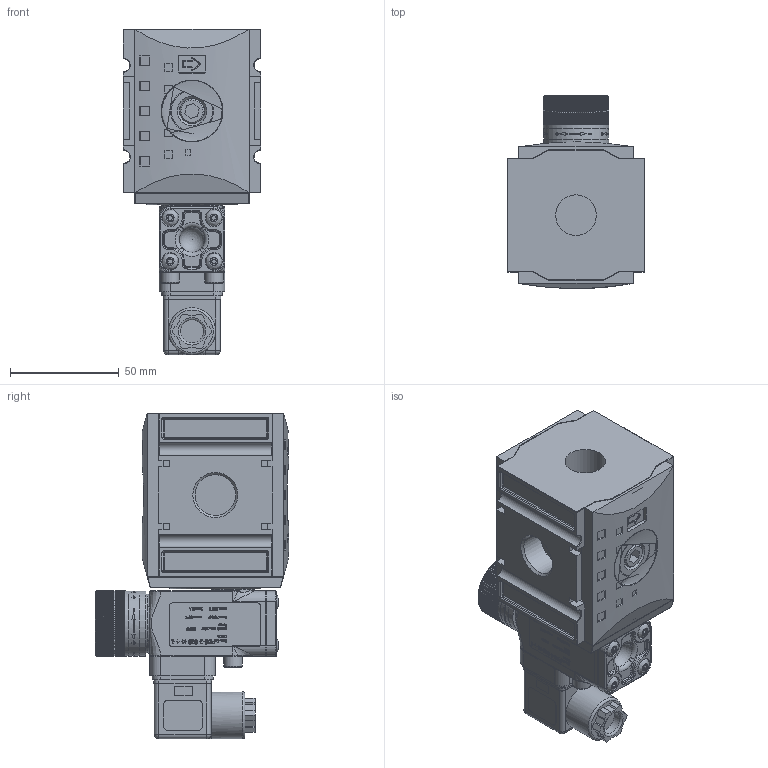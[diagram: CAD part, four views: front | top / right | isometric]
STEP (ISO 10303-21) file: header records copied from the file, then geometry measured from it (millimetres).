
FILE_DESCRIPTION((''),'2;1');
FILE_NAME('K:\ZEICHNG\Kunden Modelle\FUTURA Steps\BG2\KDIS-238 U.stp','2010-08-17T11:50:26',('DDruske'),(''),'Autodesk Inventor 2009','Autodesk Inventor 2009','');
FILE_SCHEMA(('AUTOMOTIVE_DESIGN { 1 0 10303 214 1 1 1 1 }'));
Length unit declared in the file: millimetre
Products named in the file (1): Bauteil3
Bounding box: 63 x 88.56 x 149.3 mm (x, y, z)
Volume: 358108.7 mm3; surface area: 71329.5 mm2
Topology: 7 solids, 7 shells, 2881 faces, 7710 edges, 4972 vertices
Faces by surface type: plane 1573, bspline 843, cylinder 359, torus 67, cone 21, sphere 18
Full cylindrical faces by diameter (mm): 3 x1, 5 x2, 6 x1, 6.4 x1, 6.9 x1, 7.5 x4, 8 x4, 8.5 x2, 10.6 x1, 11.245 x1, 11.445 x1, 18.6 x1, 18.631 x1, 19 x2, 21.5 x1, 27 x1, 28 x2, 29.9 x1, 30 x2
Entity records: 105701 total; most frequent: CARTESIAN_POINT 37149, ORIENTED_EDGE 15120, DIRECTION 10830, EDGE_CURVE 7560, VERTEX_POINT 4944, VECTOR 4560, LINE 4560, EDGE_LOOP 3174
